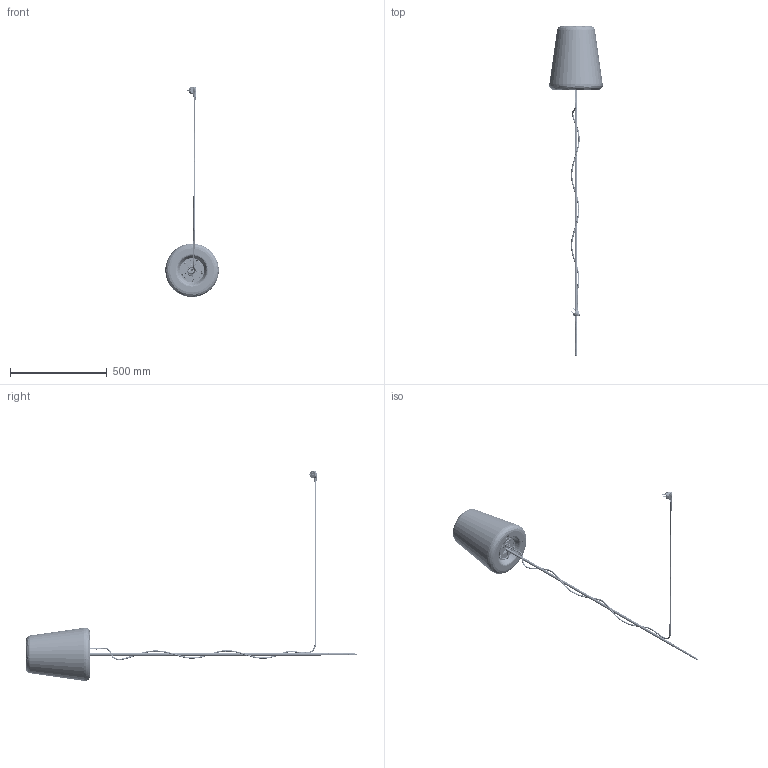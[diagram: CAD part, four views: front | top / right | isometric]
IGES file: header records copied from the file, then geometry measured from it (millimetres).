
Start section: SolidWorks IGES file using analytic representation for surfaces
Global section: file name: E:\3D lampy\Stoj¹ca_cloud forms\CloudForms_stoj¹ca.IGS; native system: SolidWorks 2017; preprocessor: SolidWorks 2017; author: Asia; date: 171120.124521; units: millimetre
Bounding box: 275.52 x 1713.02 x 1084.17 mm (x, y, z)
Surface area: 888717.4 mm2 (no closed solid volume)
Topology: 0 solids, 0 shells, 2400 faces, 26098 edges, 26063 vertices
Faces by surface type: bspline 1634, revolution 766
